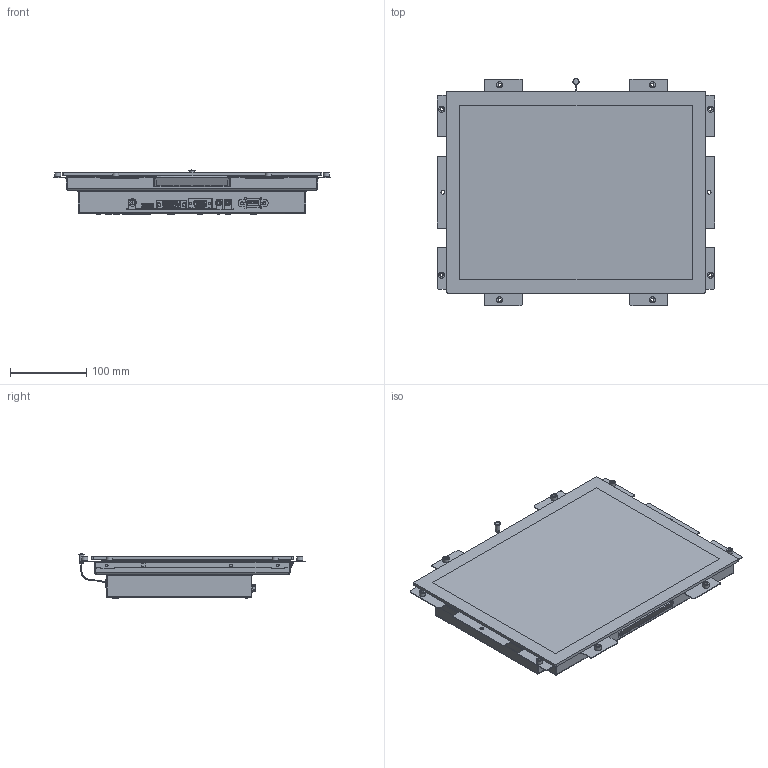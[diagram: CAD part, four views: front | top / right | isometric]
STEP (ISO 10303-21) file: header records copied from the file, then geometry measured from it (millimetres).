
FILE_DESCRIPTION (( 'STEP AP203' ), '1' );
FILE_NAME ('Z150-OF-MON Assembly.STEP', '2025-11-28T10:29:53', ( '' ), ( '' ), 'SwSTEP 2.0', 'SolidWorks 2025', '' );
FILE_SCHEMA (( 'CONFIG_CONTROL_DESIGN' ));
Length unit declared in the file: millimetre
Products named in the file (24): DVI-I_默认; VGA D-Sub right-angle; MPP-150-10 Mounting plate; sn sticker^TFT-ITD-00 Backcover assembly; ITD15KITT5HB01 display + sensor; Essentra 465907; BC-ITD-10 Backcover; ITD-Lichtsensor; OSD-sticker; AD-kit 15-24''''; Led driver 24; Led driver 21,5; Z150-OF-MON Assembly; HDMI_soldered; Led driver 15-19; TFT-ITD-00 Backcover assembly_Monitor componenten; USB panelmount_Défaut; ITD-IO Input sticker; MONB150-00 Assembly; Afstandbus 4,2x8x5; SO-3,5M3-6-ZI Inpersafstandsteun
Assembly tree (59 placements, depth 4):
  Z150-OF-MON Assembly
    MONB150-00 Assembly
      MPP-150-10 Mounting plate
        MPP-150-10 Mounting plate
        SO-3,5M3-6-ZI Inpersafstandsteun  x12
      ITD15KITT5HB01 display + sensor
    TFT-ITD-00 Backcover assembly_Monitor componenten
      BC-ITD-10 Backcover
        BC-ITD-10 Backcover
        SO-3,5M3-6-ZI Inpersafstandsteun  x18
      AD-kit 15-24''''
        AD-kit 15-24''''
        DVI-I_默认
        HDMI_soldered
        VGA D-Sub right-angle
      USB panelmount_Défaut
      sn sticker^TFT-ITD-00 Backcover assembly
      Led driver 15-19
      Led driver 21,5
      Led driver 24
      ITD-IO Input sticker
      OSD-sticker
    ITD-Lichtsensor
    Essentra 465907
    Afstandbus 4,2x8x5  x8
Bounding box: 363.5 x 297.22 x 57.8 mm (x, y, z)
Volume: 225688.6 mm3; surface area: 633039.6 mm2
Topology: 55 solids, 62 shells, 4143 faces, 11226 edges, 7372 vertices
Faces by surface type: plane 2980, cylinder 717, bspline 376, cone 46, torus 20, sphere 4
Full cylindrical faces by diameter (mm): 0.65 x15, 0.9 x15, 1 x1, 1.5 x1, 1.68 x2, 2.5 x30, 2.9 x2, 3 x4, 3.16 x2, 3.33 x2, 3.5 x29, 3.73 x2, 3.76 x2, 4 x4, 4.2 x8, 4.5 x6, 4.69 x2, 5 x10, 5.4 x30, 5.49 x30, 5.5 x4, 6 x2, 6.5 x2, 8 x16, 8.5 x1, 10 x1
Entity records: 140154 total; most frequent: CARTESIAN_POINT 41999, ORIENTED_EDGE 20062, DIRECTION 17700, EDGE_CURVE 10260, LINE 8068, VECTOR 8068, VERTEX_POINT 6845, AXIS2_PLACEMENT_3D 4816
